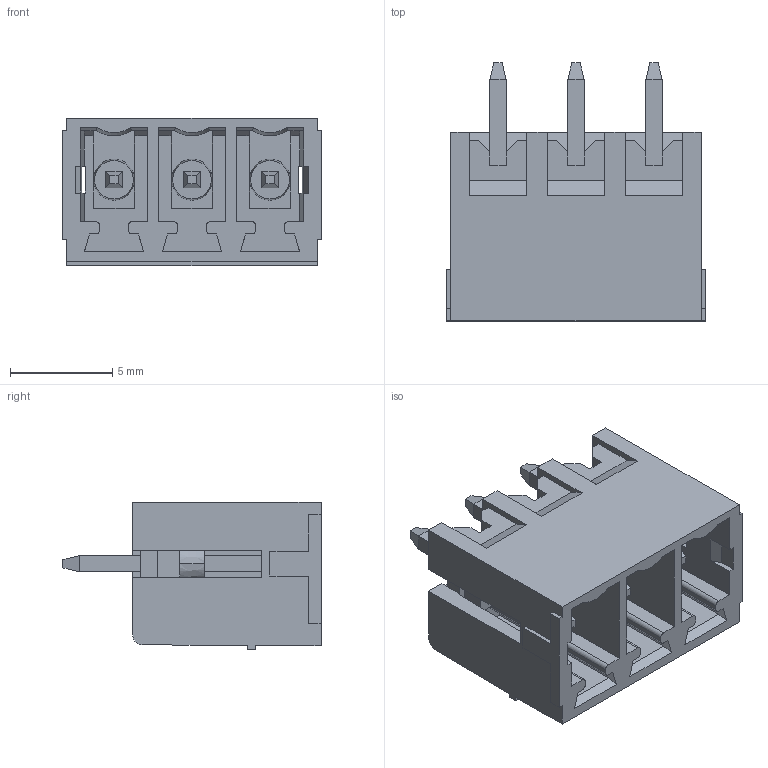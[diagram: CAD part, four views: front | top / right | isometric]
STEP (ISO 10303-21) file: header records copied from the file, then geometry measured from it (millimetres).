
FILE_DESCRIPTION(('FreeCAD Model'),'2;1');
FILE_NAME('Open CASCADE Shape Model','2023-05-24T15:49:47',('Author'),( ''),'Open CASCADE STEP processor 7.6','FreeCAD','Unknown');
FILE_SCHEMA(('AUTOMOTIVE_DESIGN { 1 0 10303 214 1 1 1 1 }'));
Length unit declared in the file: millimetre
Products named in the file (1): BR7MC2-03
Bounding box: 12.62 x 12.6 x 7.2 mm (x, y, z)
Volume: 383.9 mm3; surface area: 1174 mm2
Topology: 1 solids, 1 shells, 284 faces, 773 edges, 493 vertices
Faces by surface type: plane 253, cylinder 16, cone 9, sphere 6
Entity records: 19128 total; most frequent: CARTESIAN_POINT 3613, DIRECTION 2882, LINE 2165, VECTOR 2165, ORIENTED_EDGE 1534, PCURVE 1534, DEFINITIONAL_REPRESENTATION 1534, EDGE_CURVE 767
